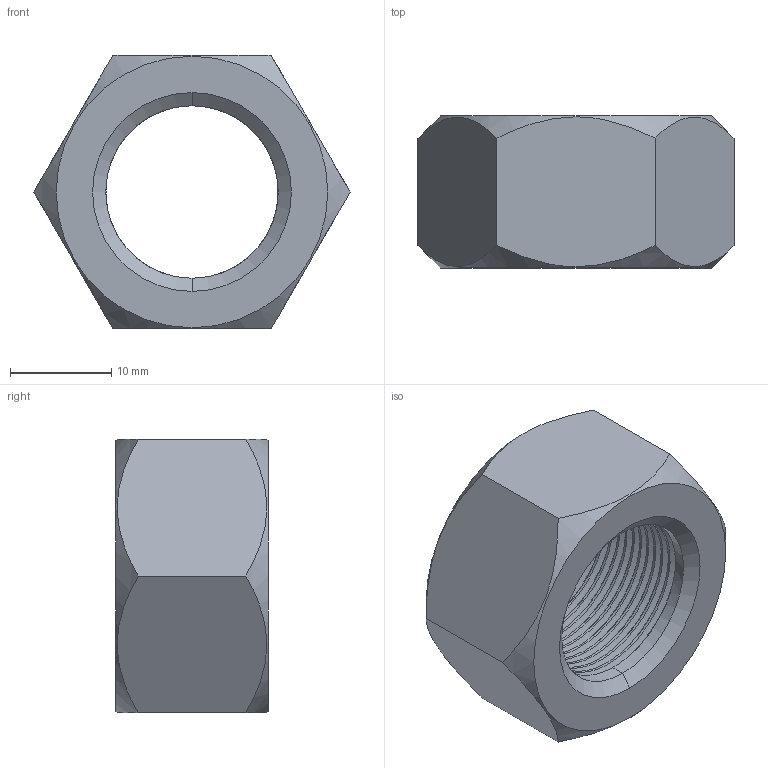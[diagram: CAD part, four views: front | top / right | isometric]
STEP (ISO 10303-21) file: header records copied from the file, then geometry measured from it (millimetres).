
FILE_DESCRIPTION (( 'STEP AP203' ), '1' );
FILE_NAME ('TANRM-304-M18x1.STEP', '2026-08-21T15:03:47', ( '' ), ( '' ), 'SwSTEP 2.0', 'SolidWorks 2020', '' );
FILE_SCHEMA (( 'CONFIG_CONTROL_DESIGN' ));
Length unit declared in the file: millimetre
Products named in the file (1): TANRM-304-M18x1
Bounding box: 31.18 x 15 x 27 mm (x, y, z)
Volume: 5750.6 mm3; surface area: 3277.3 mm2
Topology: 1 solids, 1 shells, 45 faces, 127 edges, 84 vertices
Faces by surface type: cylinder 25, plane 9, cone 8, bspline 3
Entity records: 3771 total; most frequent: CARTESIAN_POINT 2721, ORIENTED_EDGE 254, DIRECTION 151, EDGE_CURVE 127, VERTEX_POINT 84, AXIS2_PLACEMENT_3D 54, EDGE_LOOP 47, FACE_OUTER_BOUND 45
